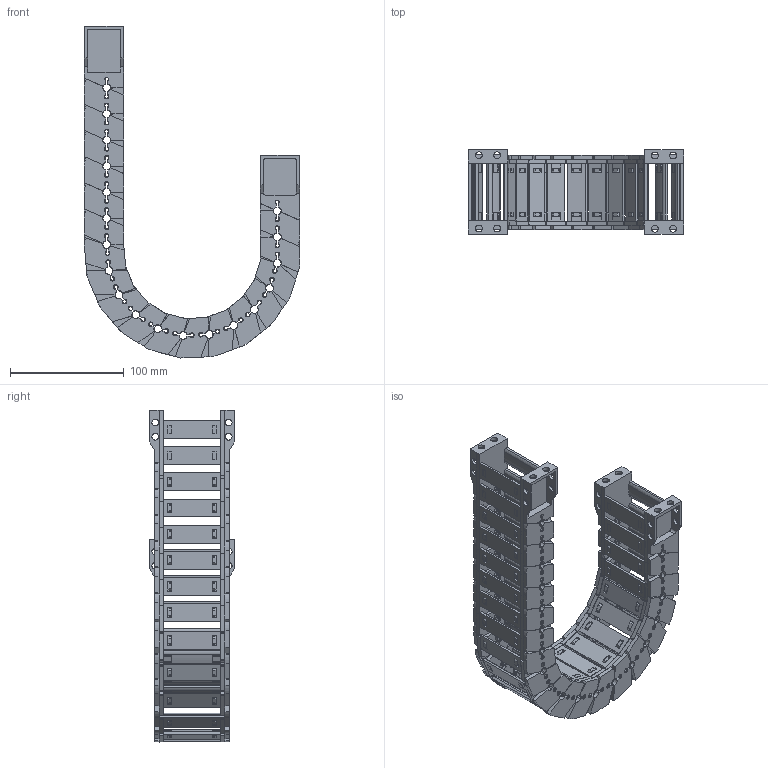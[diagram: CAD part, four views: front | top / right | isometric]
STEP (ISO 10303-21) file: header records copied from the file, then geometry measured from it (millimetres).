
FILE_DESCRIPTION(/* description */ (''),/* implementation_level */ '2;1');
FILE_NAME(/* name */ 'JY28-50-R75.stp',/* time_stamp */ '2026-06-03T14:06:50+08:00',/* author */ (''),/* organization */ (''),/* preprocessor_version */ 'ST-DEVELOPER v19.4',/* originating_system */ 'SIEMENS PLM Software NX2306.5001',/* authorisation */ '');
FILE_SCHEMA (('AP203_CONFIGURATION_CONTROLLED_3D_DESIGN_OF_MECHANICAL_PARTS_AND_ASSEMBLIES_MIM_LF { 1 0 10303 403 2 1 2}'));
Products named in the file (1): _model1_objects
Bounding box: 189.55 x 74.5 x 292.17 mm (x, y, z)
Volume: 323609.4 mm3; surface area: 237209.1 mm2
Topology: 74 solids, 74 shells, 6194 faces, 17618 edges, 11518 vertices
Faces by surface type: plane 4058, cone 1120, cylinder 978, bspline 36, torus 2
Full cylindrical faces by diameter (mm): 6 x24
Entity records: 209461 total; most frequent: CARTESIAN_POINT 46487, ORIENTED_EDGE 35144, DIRECTION 33002, EDGE_CURVE 17572, LINE 11632, VECTOR 11632, VERTEX_POINT 11496, AXIS2_PLACEMENT_3D 10685
